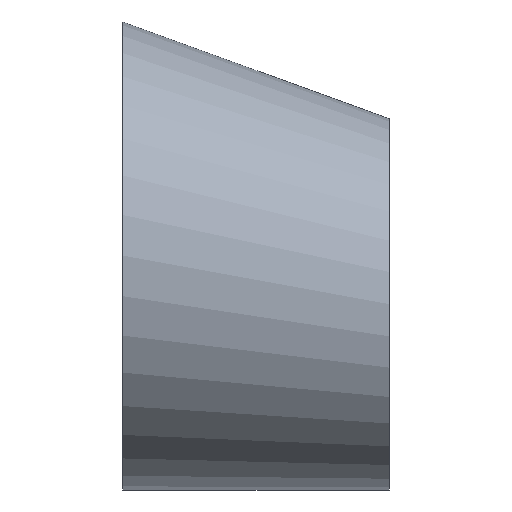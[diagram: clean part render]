
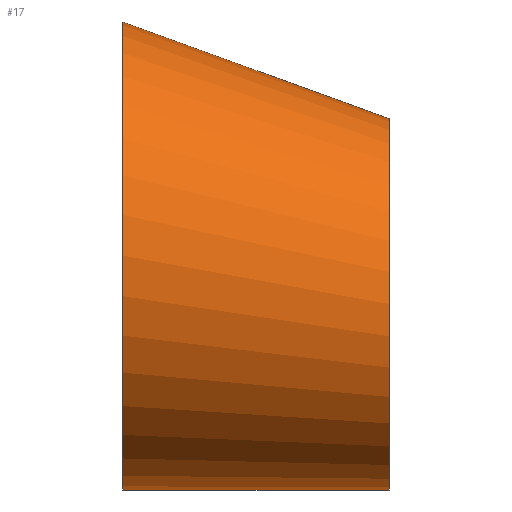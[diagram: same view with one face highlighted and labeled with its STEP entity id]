
A CAD part, top view. The second image highlights one B-rep face of the part: STEP entity #17.
In plain terms, the highlighted free-form (B-spline) face has degree [14, 1] with [15, 2] control points.
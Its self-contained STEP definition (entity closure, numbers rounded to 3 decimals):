
#17 = ADVANCED_FACE('',(#18),#31,.T.);
#18 = FACE_BOUND('',#19,.T.);
#19 = EDGE_LOOP('',(#20,#80,#102,#129));
#20 = ORIENTED_EDGE('',*,*,#21,.T.);
#21 = EDGE_CURVE('',#22,#22,#24,.T.);
#22 = VERTEX_POINT('',#23);
#23 = CARTESIAN_POINT('',(0.,14.5,0.));
#24 = SURFACE_CURVE('',#25,(#30,#68),.PCURVE_S1.);
#25 = CIRCLE('',#26,14.5);
#26 = AXIS2_PLACEMENT_3D('',#27,#28,#29);
#27 = CARTESIAN_POINT('',(0.,0.,0.));
#28 = DIRECTION('',(1.,0.,0.));
#29 = DIRECTION('',(0.,1.,0.));
#30 = PCURVE('',#31,#62);
#31 = B_SPLINE_SURFACE_WITH_KNOTS('',14,1,(
    (#32,#33)
    ,(#34,#35)
    ,(#36,#37)
    ,(#38,#39)
    ,(#40,#41)
    ,(#42,#43)
    ,(#44,#45)
    ,(#46,#47)
    ,(#48,#49)
    ,(#50,#51)
    ,(#52,#53)
    ,(#54,#55)
    ,(#56,#57)
    ,(#58,#59)
    ,(#60,#61
    )),.UNSPECIFIED.,.T.,.F.,.F.,(15,15),(2,2),(0.,6.283),(0.,1.
    ),.PIECEWISE_BEZIER_KNOTS.);
#32 = CARTESIAN_POINT('',(0.,14.5,0.));
#33 = CARTESIAN_POINT('',(16.5,8.5,0.));
#34 = CARTESIAN_POINT('',(0.,14.5,6.508));
#35 = CARTESIAN_POINT('',(16.5,8.5,5.161)
  );
#36 = CARTESIAN_POINT('',(0.,11.355,13.015));
#37 = CARTESIAN_POINT('',(16.5,6.005,10.322)
  );
#38 = CARTESIAN_POINT('',(0.,5.064,17.876));
#39 = CARTESIAN_POINT('',(16.5,1.016,14.177
    ));
#40 = CARTESIAN_POINT('',(0.,-3.431,19.443));
#41 = CARTESIAN_POINT('',(16.5,-5.721,
    15.42));
#42 = CARTESIAN_POINT('',(0.,-12.249,16.66));
#43 = CARTESIAN_POINT('',(16.5,-12.715,13.213
    ));
#44 = CARTESIAN_POINT('',(0.,-18.981,9.655));
#45 = CARTESIAN_POINT('',(16.5,-18.054,7.658));
#46 = CARTESIAN_POINT('',(0.,-21.516,0.));
#47 = CARTESIAN_POINT('',(16.5,-20.064,
    0.));
#48 = CARTESIAN_POINT('',(0.,-18.981,-9.655));
#49 = CARTESIAN_POINT('',(16.5,-18.054,
    -7.658));
#50 = CARTESIAN_POINT('',(0.,-12.249,-16.66));
#51 = CARTESIAN_POINT('',(16.5,-12.715,
    -13.213));
#52 = CARTESIAN_POINT('',(0.,-3.431,-19.443));
#53 = CARTESIAN_POINT('',(16.5,-5.721,
    -15.42));
#54 = CARTESIAN_POINT('',(0.,5.064,-17.876));
#55 = CARTESIAN_POINT('',(16.5,1.016,-14.177)
  );
#56 = CARTESIAN_POINT('',(0.,11.355,-13.015));
#57 = CARTESIAN_POINT('',(16.5,6.005,-10.322
    ));
#58 = CARTESIAN_POINT('',(0.,14.5,-6.508));
#59 = CARTESIAN_POINT('',(16.5,8.5,-5.161
    ));
#60 = CARTESIAN_POINT('',(0.,14.5,0.));
#61 = CARTESIAN_POINT('',(16.5,8.5,0.));
#62 = DEFINITIONAL_REPRESENTATION('',(#63),#67);
#63 = LINE('',#64,#65);
#64 = CARTESIAN_POINT('',(0.,0.));
#65 = VECTOR('',#66,1.);
#66 = DIRECTION('',(1.,0.));
#67 = ( GEOMETRIC_REPRESENTATION_CONTEXT(2) 
PARAMETRIC_REPRESENTATION_CONTEXT() REPRESENTATION_CONTEXT('2D SPACE',''
  ) );
#68 = PCURVE('',#69,#74);
#69 = PLANE('',#70);
#70 = AXIS2_PLACEMENT_3D('',#71,#72,#73);
#71 = CARTESIAN_POINT('',(0.,0.,0.));
#72 = DIRECTION('',(1.,0.,0.));
#73 = DIRECTION('',(0.,1.,0.));
#74 = DEFINITIONAL_REPRESENTATION('',(#75),#79);
#75 = CIRCLE('',#76,14.5);
#76 = AXIS2_PLACEMENT_2D('',#77,#78);
#77 = CARTESIAN_POINT('',(0.,0.));
#78 = DIRECTION('',(1.,0.));
#79 = ( GEOMETRIC_REPRESENTATION_CONTEXT(2) 
PARAMETRIC_REPRESENTATION_CONTEXT() REPRESENTATION_CONTEXT('2D SPACE',''
  ) );
#80 = ORIENTED_EDGE('',*,*,#81,.T.);
#81 = EDGE_CURVE('',#22,#82,#84,.T.);
#82 = VERTEX_POINT('',#83);
#83 = CARTESIAN_POINT('',(16.5,8.5,0.));
#84 = SEAM_CURVE('',#85,(#88,#95),.PCURVE_S1.);
#85 = B_SPLINE_CURVE_WITH_KNOTS('',1,(#86,#87),.UNSPECIFIED.,.F.,.F.,(2,
    2),(0.,1.),.PIECEWISE_BEZIER_KNOTS.);
#86 = CARTESIAN_POINT('',(0.,14.5,0.));
#87 = CARTESIAN_POINT('',(16.5,8.5,0.));
#88 = PCURVE('',#31,#89);
#89 = DEFINITIONAL_REPRESENTATION('',(#90),#94);
#90 = LINE('',#91,#92);
#91 = CARTESIAN_POINT('',(6.283,0.));
#92 = VECTOR('',#93,1.);
#93 = DIRECTION('',(0.,1.));
#94 = ( GEOMETRIC_REPRESENTATION_CONTEXT(2) 
PARAMETRIC_REPRESENTATION_CONTEXT() REPRESENTATION_CONTEXT('2D SPACE',''
  ) );
#95 = PCURVE('',#31,#96);
#96 = DEFINITIONAL_REPRESENTATION('',(#97),#101);
#97 = LINE('',#98,#99);
#98 = CARTESIAN_POINT('',(0.,0.));
#99 = VECTOR('',#100,1.);
#100 = DIRECTION('',(0.,1.));
#101 = ( GEOMETRIC_REPRESENTATION_CONTEXT(2) 
PARAMETRIC_REPRESENTATION_CONTEXT() REPRESENTATION_CONTEXT('2D SPACE',''
  ) );
#102 = ORIENTED_EDGE('',*,*,#103,.F.);
#103 = EDGE_CURVE('',#82,#82,#104,.T.);
#104 = SURFACE_CURVE('',#105,(#110,#117),.PCURVE_S1.);
#105 = CIRCLE('',#106,11.5);
#106 = AXIS2_PLACEMENT_3D('',#107,#108,#109);
#107 = CARTESIAN_POINT('',(16.5,-3.,0.));
#108 = DIRECTION('',(1.,0.,0.));
#109 = DIRECTION('',(0.,1.,0.));
#110 = PCURVE('',#31,#111);
#111 = DEFINITIONAL_REPRESENTATION('',(#112),#116);
#112 = LINE('',#113,#114);
#113 = CARTESIAN_POINT('',(0.,1.));
#114 = VECTOR('',#115,1.);
#115 = DIRECTION('',(1.,0.));
#116 = ( GEOMETRIC_REPRESENTATION_CONTEXT(2) 
PARAMETRIC_REPRESENTATION_CONTEXT() REPRESENTATION_CONTEXT('2D SPACE',''
  ) );
#117 = PCURVE('',#118,#123);
#118 = PLANE('',#119);
#119 = AXIS2_PLACEMENT_3D('',#120,#121,#122);
#120 = CARTESIAN_POINT('',(16.5,-3.,0.));
#121 = DIRECTION('',(1.,0.,0.));
#122 = DIRECTION('',(0.,1.,0.));
#123 = DEFINITIONAL_REPRESENTATION('',(#124),#128);
#124 = CIRCLE('',#125,11.5);
#125 = AXIS2_PLACEMENT_2D('',#126,#127);
#126 = CARTESIAN_POINT('',(0.,0.));
#127 = DIRECTION('',(1.,0.));
#128 = ( GEOMETRIC_REPRESENTATION_CONTEXT(2) 
PARAMETRIC_REPRESENTATION_CONTEXT() REPRESENTATION_CONTEXT('2D SPACE',''
  ) );
#129 = ORIENTED_EDGE('',*,*,#81,.F.);
